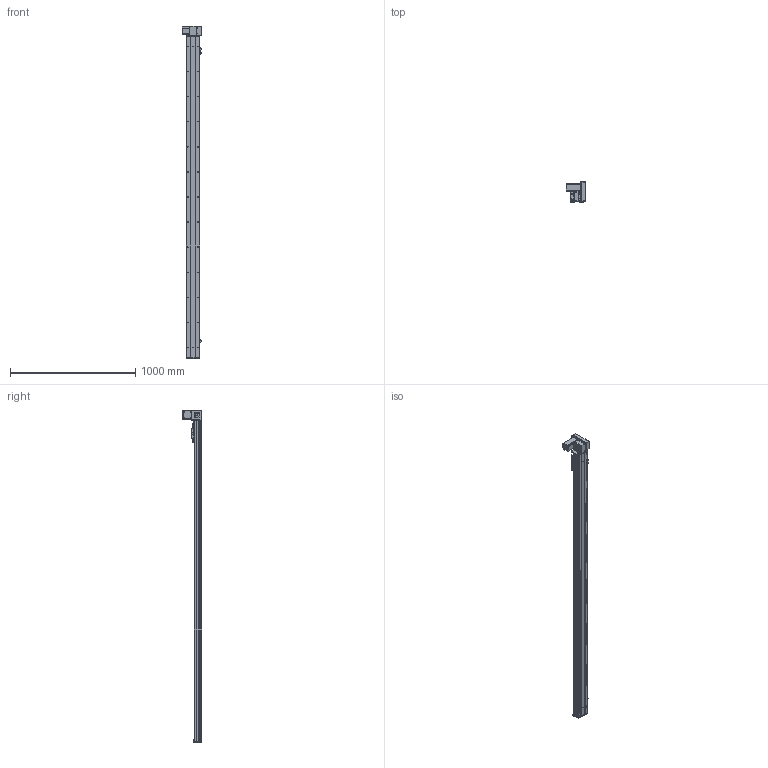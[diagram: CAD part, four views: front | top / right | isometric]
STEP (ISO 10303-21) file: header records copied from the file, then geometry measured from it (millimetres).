
FILE_DESCRIPTION (( 'STEP AP203' ), '1' );
FILE_NAME ('Y10CB-D90-S2300-UR-P400W.STEP', '2020-02-16T04:10:18', ( '微软用户' ), ( '微软中国' ), 'SwSTEP 2.0', 'SolidWorks 2017', '' );
FILE_SCHEMA (( 'CONFIG_CONTROL_DESIGN' ));
Length unit declared in the file: millimetre
Products named in the file (18): Y10B-々湍喘謫眊楊擘啣--; Y10B--々湍喘謫眊--666; 0B-埴倛裔啣; Y10B-耜蚾蟀諉啣----; 10CB-詩湍-; 00B-俋欶BM--; Y10CB- 掛极耜裔啣-毀---; Y10CB-D90-S2300-UR-P400W; Y10C---詩湍揤啣; 10CB9-掛极; 10CB-耜裔; 0B-萇儂楊擘啣; 0CB-雄赽釱---; Y135C-陔俋离換覜結え-; san松下电机400不带刹车----; 0Cb-俋欶---; Y100-135俋离換覜ん--; 0B-源倛裔啣
Assembly tree (21 placements, depth 2):
  Y10CB-D90-S2300-UR-P400W
    0CB-雄赽釱---
    0Cb-俋欶---
    Y10B-々湍喘謫眊楊擘啣--
    0B-萇儂楊擘啣
    san松下电机400不带刹车----
    0B-源倛裔啣
    0B-埴倛裔啣
    10CB-詩湍-
    Y10CB- 掛极耜裔啣-毀---  x2
    Y10C---詩湍揤啣  x2
    10CB9-掛极
    10CB-耜裔
    Y135C-陔俋离換覜結え-
    Y100-135俋离換覜ん--  x3
    Y10B--々湍喘謫眊--666
    Y10B-耜蚾蟀諉啣----
    00B-俋欶BM--
Bounding box: 157 x 155.5 x 2646 mm (x, y, z)
Volume: 5404535.7 mm3; surface area: 2555935.2 mm2
Topology: 21 solids, 21 shells, 1062 faces, 2883 edges, 1874 vertices
Faces by surface type: cylinder 549, plane 489, cone 24
Entity records: 33912 total; most frequent: CARTESIAN_POINT 6357, DIRECTION 5406, ORIENTED_EDGE 5236, EDGE_CURVE 2618, AXIS2_PLACEMENT_3D 1933, VERTEX_POINT 1700, LINE 1540, VECTOR 1540
